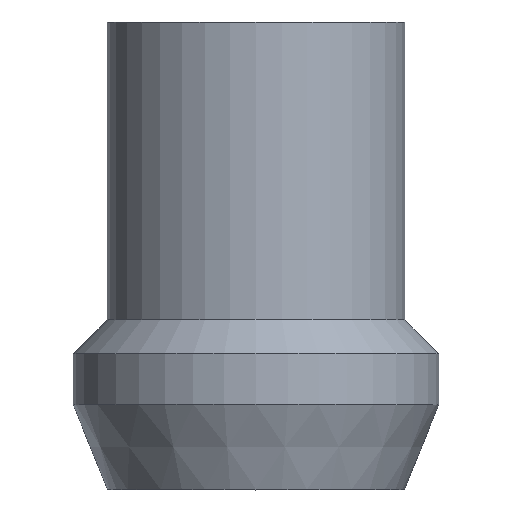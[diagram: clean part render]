
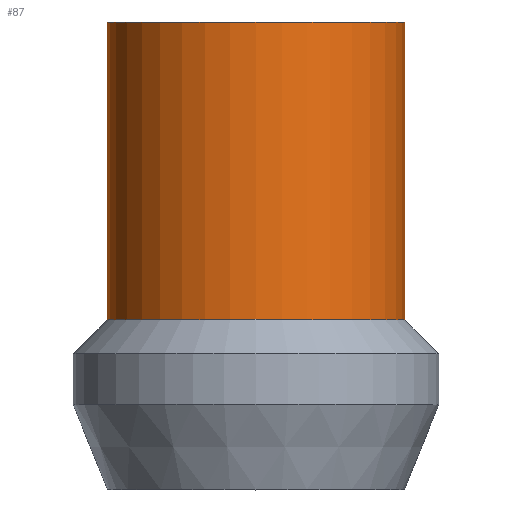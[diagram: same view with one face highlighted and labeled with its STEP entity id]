
A CAD part, top view. The second image highlights one B-rep face of the part: STEP entity #87.
In plain terms, the highlighted cylindrical face has radius 3.5 mm (diameter 7 mm), a full revolution.
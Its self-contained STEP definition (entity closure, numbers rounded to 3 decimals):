
#21=FACE_BOUND('',#38,.T.);
#28=FACE_OUTER_BOUND('',#37,.T.);
#37=EDGE_LOOP('',(#72));
#38=EDGE_LOOP('',(#73));
#49=CIRCLE('',#98,3.5);
#50=CIRCLE('',#100,3.5);
#56=VERTEX_POINT('',#145);
#57=VERTEX_POINT('',#148);
#63=EDGE_CURVE('',#56,#56,#49,.T.);
#64=EDGE_CURVE('',#57,#57,#50,.T.);
#72=ORIENTED_EDGE('',*,*,#64,.F.);
#73=ORIENTED_EDGE('',*,*,#63,.T.);
#83=CYLINDRICAL_SURFACE('',#99,3.5);
#87=ADVANCED_FACE('',(#28,#21),#83,.T.);
#98=AXIS2_PLACEMENT_3D('',#146,#118,#119);
#99=AXIS2_PLACEMENT_3D('',#147,#120,#121);
#100=AXIS2_PLACEMENT_3D('',#149,#122,#123);
#118=DIRECTION('center_axis',(0.,-1.,0.));
#119=DIRECTION('ref_axis',(1.,0.,0.));
#120=DIRECTION('center_axis',(0.,-1.,0.));
#121=DIRECTION('ref_axis',(1.,0.,0.));
#122=DIRECTION('center_axis',(0.,-1.,0.));
#123=DIRECTION('ref_axis',(1.,0.,0.));
#145=CARTESIAN_POINT('',(3.5,11.,0.));
#146=CARTESIAN_POINT('Origin',(0.,11.,0.));
#147=CARTESIAN_POINT('Origin',(0.,7.5,0.));
#148=CARTESIAN_POINT('',(3.5,4.,0.));
#149=CARTESIAN_POINT('Origin',(0.,4.,0.));
